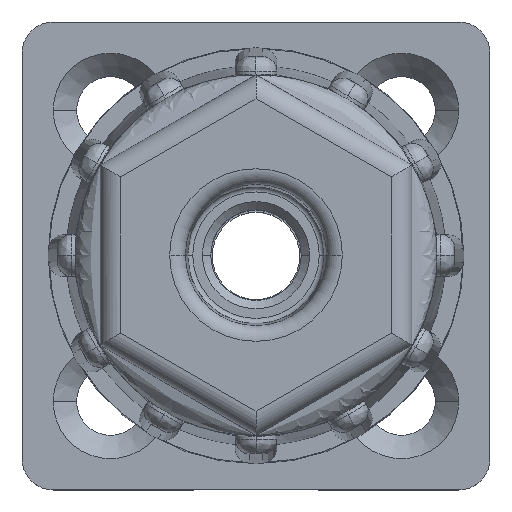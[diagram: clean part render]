
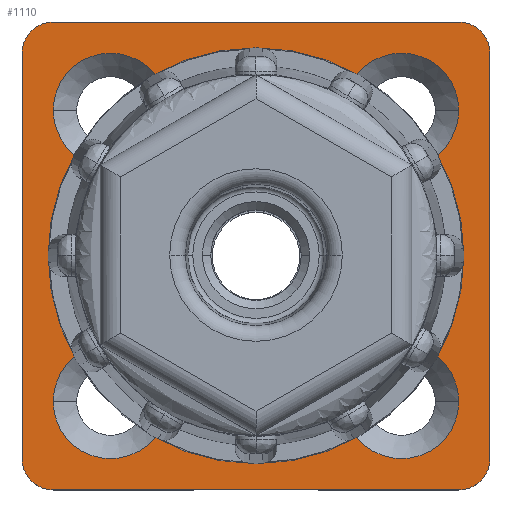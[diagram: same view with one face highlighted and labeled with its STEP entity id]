
A CAD part, top view. The second image highlights one B-rep face of the part: STEP entity #1110.
In plain terms, the highlighted planar face has unit normal (0, 0, 1).
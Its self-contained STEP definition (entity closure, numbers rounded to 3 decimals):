
#1110=ADVANCED_FACE('NONE',(#2286,#2287,#2288,#2289,#2290,#2291),#2292,.F.);
#2286=FACE_OUTER_BOUND('',#5540,.T.);
#2287=FACE_BOUND('',#5541,.T.);
#2288=FACE_BOUND('',#5542,.T.);
#2289=FACE_BOUND('',#5543,.T.);
#2290=FACE_BOUND('',#5544,.T.);
#2291=FACE_BOUND('',#5545,.T.);
#2292=PLANE('',#5546);
#5540=EDGE_LOOP('',(#8736,#8737,#8738,#8739,#8740,#8741,#8742,#8743));
#5541=EDGE_LOOP('',(#8744,#8745));
#5542=EDGE_LOOP('',(#8746,#8747));
#5543=EDGE_LOOP('',(#8748,#8749));
#5544=EDGE_LOOP('',(#8750,#8751));
#5545=EDGE_LOOP('',(#8752,#8753));
#5546=AXIS2_PLACEMENT_3D('',#8754,#8755,#8756);
#8736=ORIENTED_EDGE('',*,*,#10534,.T.);
#8737=ORIENTED_EDGE('',*,*,#10609,.T.);
#8738=ORIENTED_EDGE('',*,*,#10599,.T.);
#8739=ORIENTED_EDGE('',*,*,#10610,.T.);
#8740=ORIENTED_EDGE('',*,*,#10605,.T.);
#8741=ORIENTED_EDGE('',*,*,#10611,.T.);
#8742=ORIENTED_EDGE('',*,*,#10595,.T.);
#8743=ORIENTED_EDGE('',*,*,#10612,.T.);
#8744=ORIENTED_EDGE('',*,*,#10432,.T.);
#8745=ORIENTED_EDGE('',*,*,#10613,.T.);
#8746=ORIENTED_EDGE('',*,*,#10427,.T.);
#8747=ORIENTED_EDGE('',*,*,#10614,.T.);
#8748=ORIENTED_EDGE('',*,*,#10422,.T.);
#8749=ORIENTED_EDGE('',*,*,#10615,.T.);
#8750=ORIENTED_EDGE('',*,*,#10417,.T.);
#8751=ORIENTED_EDGE('',*,*,#10616,.T.);
#8752=ORIENTED_EDGE('',*,*,#10502,.T.);
#8753=ORIENTED_EDGE('',*,*,#10555,.T.);
#8754=CARTESIAN_POINT('',(-98.424,-32.165,-27.019));
#8755=DIRECTION('',(0.0,0.0,-1.0));
#8756=DIRECTION('',(0.0,-1.0,0.0));
#10417=EDGE_CURVE('NONE',#12392,#12389,#12393,.T.);
#10422=EDGE_CURVE('NONE',#12401,#12398,#12402,.T.);
#10427=EDGE_CURVE('NONE',#12410,#12407,#12411,.T.);
#10432=EDGE_CURVE('NONE',#12419,#12416,#12420,.T.);
#10502=EDGE_CURVE('NONE',#12524,#12537,#12539,.T.);
#10534=EDGE_CURVE('NONE',#12591,#12589,#12592,.T.);
#10555=EDGE_CURVE('NONE',#12537,#12524,#12626,.T.);
#10595=EDGE_CURVE('NONE',#12684,#12685,#12686,.T.);
#10599=EDGE_CURVE('NONE',#12690,#12691,#12692,.T.);
#10605=EDGE_CURVE('NONE',#12699,#12697,#12700,.T.);
#10609=EDGE_CURVE('NONE',#12589,#12690,#12704,.T.);
#10610=EDGE_CURVE('NONE',#12691,#12699,#12705,.T.);
#10611=EDGE_CURVE('NONE',#12697,#12684,#12706,.T.);
#10612=EDGE_CURVE('NONE',#12685,#12591,#12707,.T.);
#10613=EDGE_CURVE('NONE',#12416,#12419,#12708,.T.);
#10614=EDGE_CURVE('NONE',#12407,#12410,#12709,.T.);
#10615=EDGE_CURVE('NONE',#12398,#12401,#12710,.T.);
#10616=EDGE_CURVE('NONE',#12389,#12392,#12711,.T.);
#12389=VERTEX_POINT('',#17348);
#12392=VERTEX_POINT('NONE',#17352);
#12393=CIRCLE('',#17353,5.5);
#12398=VERTEX_POINT('',#17359);
#12401=VERTEX_POINT('NONE',#17363);
#12402=CIRCLE('',#17364,5.5);
#12407=VERTEX_POINT('',#17370);
#12410=VERTEX_POINT('NONE',#17374);
#12411=CIRCLE('',#17375,5.5);
#12416=VERTEX_POINT('',#17381);
#12419=VERTEX_POINT('NONE',#17385);
#12420=CIRCLE('',#17386,5.5);
#12524=VERTEX_POINT('NONE',#17581);
#12537=VERTEX_POINT('',#17625);
#12539=CIRCLE('',#17628,14.0);
#12589=VERTEX_POINT('NONE',#17710);
#12591=VERTEX_POINT('NONE',#17713);
#12592=LINE('',#17714,#17715);
#12626=CIRCLE('',#17777,14.0);
#12684=VERTEX_POINT('NONE',#17922);
#12685=VERTEX_POINT('NONE',#17923);
#12686=LINE('',#17924,#17925);
#12690=VERTEX_POINT('NONE',#17931);
#12691=VERTEX_POINT('NONE',#17932);
#12692=LINE('',#17933,#17934);
#12697=VERTEX_POINT('NONE',#17942);
#12699=VERTEX_POINT('NONE',#17945);
#12700=LINE('',#17946,#17947);
#12704=CIRCLE('',#17953,3.0);
#12705=CIRCLE('',#17954,3.0);
#12706=CIRCLE('',#17955,3.0);
#12707=CIRCLE('',#17956,3.0);
#12708=CIRCLE('',#17957,5.5);
#12709=CIRCLE('',#17958,5.5);
#12710=CIRCLE('',#17959,5.5);
#12711=CIRCLE('',#17960,5.5);
#17348=CARTESIAN_POINT('',(-56.424,-40.665,-27.019));
#17352=CARTESIAN_POINT('',(-67.424,-40.665,-27.019));
#17353=AXIS2_PLACEMENT_3D('',#19056,#19057,#19058);
#17359=CARTESIAN_POINT('',(-84.424,-40.665,-27.019));
#17363=CARTESIAN_POINT('',(-95.424,-40.665,-27.019));
#17364=AXIS2_PLACEMENT_3D('',#19064,#19065,#19066);
#17370=CARTESIAN_POINT('',(-84.424,-68.665,-27.019));
#17374=CARTESIAN_POINT('',(-95.424,-68.665,-27.019));
#17375=AXIS2_PLACEMENT_3D('',#19072,#19073,#19074);
#17381=CARTESIAN_POINT('',(-56.424,-68.665,-27.019));
#17385=CARTESIAN_POINT('',(-67.424,-68.665,-27.019));
#17386=AXIS2_PLACEMENT_3D('',#19080,#19081,#19082);
#17581=CARTESIAN_POINT('',(-89.924,-54.665,-27.019));
#17625=CARTESIAN_POINT('',(-61.924,-54.665,-27.019));
#17628=AXIS2_PLACEMENT_3D('',#19175,#19176,#19177);
#17710=CARTESIAN_POINT('',(-56.424,-77.165,-27.019));
#17713=CARTESIAN_POINT('',(-95.424,-77.165,-27.019));
#17714=CARTESIAN_POINT('',(-98.424,-77.165,-27.019));
#17715=VECTOR('',#19221,1000.0);
#17777=AXIS2_PLACEMENT_3D('',#19242,#19243,#19244);
#17922=CARTESIAN_POINT('',(-98.424,-35.165,-27.019));
#17923=CARTESIAN_POINT('',(-98.424,-74.165,-27.019));
#17924=CARTESIAN_POINT('',(-98.424,-77.165,-27.019));
#17925=VECTOR('',#19287,1000.0);
#17931=CARTESIAN_POINT('',(-53.424,-74.165,-27.019));
#17932=CARTESIAN_POINT('',(-53.424,-35.165,-27.019));
#17933=CARTESIAN_POINT('',(-53.424,-77.165,-27.019));
#17934=VECTOR('',#19290,1000.0);
#17942=CARTESIAN_POINT('',(-95.424,-32.165,-27.019));
#17945=CARTESIAN_POINT('',(-56.424,-32.165,-27.019));
#17946=CARTESIAN_POINT('',(-98.424,-32.165,-27.019));
#17947=VECTOR('',#19295,1000.0);
#17953=AXIS2_PLACEMENT_3D('',#19298,#19299,#19300);
#17954=AXIS2_PLACEMENT_3D('',#19301,#19302,#19303);
#17955=AXIS2_PLACEMENT_3D('',#19304,#19305,#19306);
#17956=AXIS2_PLACEMENT_3D('',#19307,#19308,#19309);
#17957=AXIS2_PLACEMENT_3D('',#19310,#19311,#19312);
#17958=AXIS2_PLACEMENT_3D('',#19313,#19314,#19315);
#17959=AXIS2_PLACEMENT_3D('',#19316,#19317,#19318);
#17960=AXIS2_PLACEMENT_3D('',#19319,#19320,#19321);
#19056=CARTESIAN_POINT('',(-61.924,-40.665,-27.019));
#19057=DIRECTION('',(0.0,0.0,-1.0));
#19058=DIRECTION('',(-1.0,0.0,0.0));
#19064=CARTESIAN_POINT('',(-89.924,-40.665,-27.019));
#19065=DIRECTION('',(0.0,0.0,-1.0));
#19066=DIRECTION('',(-1.0,0.0,0.0));
#19072=CARTESIAN_POINT('',(-89.924,-68.665,-27.019));
#19073=DIRECTION('',(0.0,0.0,-1.0));
#19074=DIRECTION('',(-1.0,0.0,0.0));
#19080=CARTESIAN_POINT('',(-61.924,-68.665,-27.019));
#19081=DIRECTION('',(0.0,0.0,-1.0));
#19082=DIRECTION('',(-1.0,0.0,0.0));
#19175=CARTESIAN_POINT('',(-75.924,-54.665,-27.019));
#19176=DIRECTION('',(0.0,0.0,-1.0));
#19177=DIRECTION('',(-1.0,0.0,0.0));
#19221=DIRECTION('',(1.0,0.0,0.0));
#19242=CARTESIAN_POINT('',(-75.924,-54.665,-27.019));
#19243=DIRECTION('',(0.0,0.0,-1.0));
#19244=DIRECTION('',(-1.0,0.0,0.0));
#19287=DIRECTION('',(-0.0,-1.0,-0.0));
#19290=DIRECTION('',(0.0,1.0,0.0));
#19295=DIRECTION('',(-1.0,-0.0,-0.0));
#19298=CARTESIAN_POINT('',(-56.424,-74.165,-27.019));
#19299=DIRECTION('',(0.0,0.0,1.0));
#19300=DIRECTION('',(-1.0,0.,0.0));
#19301=CARTESIAN_POINT('',(-56.424,-35.165,-27.019));
#19302=DIRECTION('',(0.0,0.0,1.0));
#19303=DIRECTION('',(-1.0,0.0,0.0));
#19304=CARTESIAN_POINT('',(-95.424,-35.165,-27.019));
#19305=DIRECTION('',(0.0,0.0,1.0));
#19306=DIRECTION('',(-1.0,0.0,0.0));
#19307=CARTESIAN_POINT('',(-95.424,-74.165,-27.019));
#19308=DIRECTION('',(0.0,0.0,1.0));
#19309=DIRECTION('',(-1.0,0.0,0.0));
#19310=CARTESIAN_POINT('',(-61.924,-68.665,-27.019));
#19311=DIRECTION('',(0.0,0.0,-1.0));
#19312=DIRECTION('',(-1.0,0.0,0.0));
#19313=CARTESIAN_POINT('',(-89.924,-68.665,-27.019));
#19314=DIRECTION('',(0.0,0.0,-1.0));
#19315=DIRECTION('',(-1.0,0.0,0.0));
#19316=CARTESIAN_POINT('',(-89.924,-40.665,-27.019));
#19317=DIRECTION('',(0.0,0.0,-1.0));
#19318=DIRECTION('',(-1.0,0.0,0.0));
#19319=CARTESIAN_POINT('',(-61.924,-40.665,-27.019));
#19320=DIRECTION('',(0.0,0.0,-1.0));
#19321=DIRECTION('',(-1.0,0.0,0.0));
